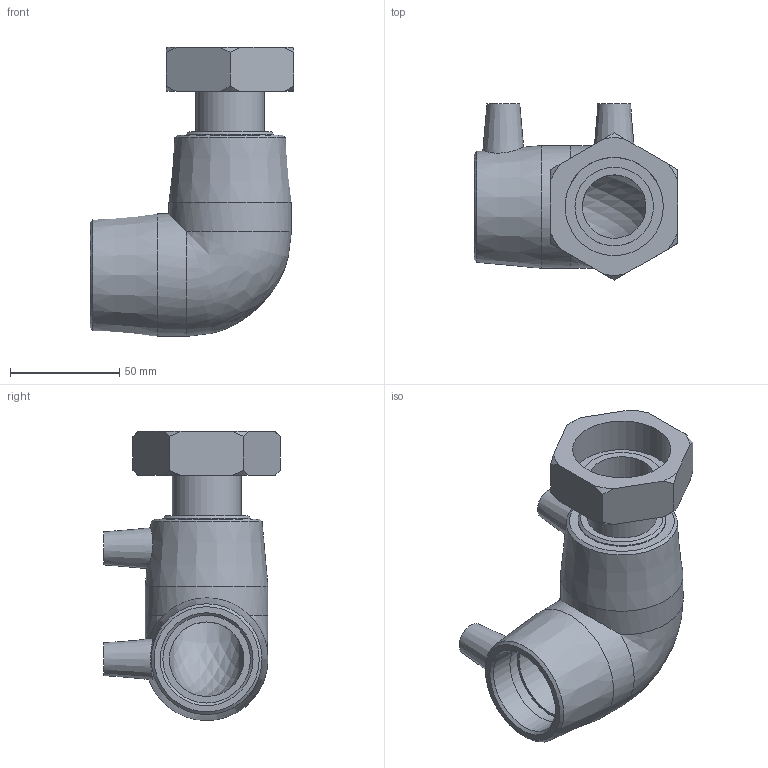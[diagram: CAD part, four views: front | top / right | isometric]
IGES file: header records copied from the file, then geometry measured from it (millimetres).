
Global section: file name: 494504040015.ipt; native system: Autodesk Inventor 2015; preprocessor: unknown; author: KIM; date: 20180426.120817; units: millimetre
Bounding box: 93.13 x 80.63 x 132 mm (x, y, z)
Volume: 207823.1 mm3; surface area: 55776.1 mm2
Topology: 1 solids, 2 shells, 61 faces, 146 edges, 98 vertices
Faces by surface type: plane 23, cone 19, revolution 10, cylinder 8, bspline 1
Full cylindrical faces by diameter (mm): 4 x2, 31.392 x1, 35.876 x1, 40 x2, 56 x2
